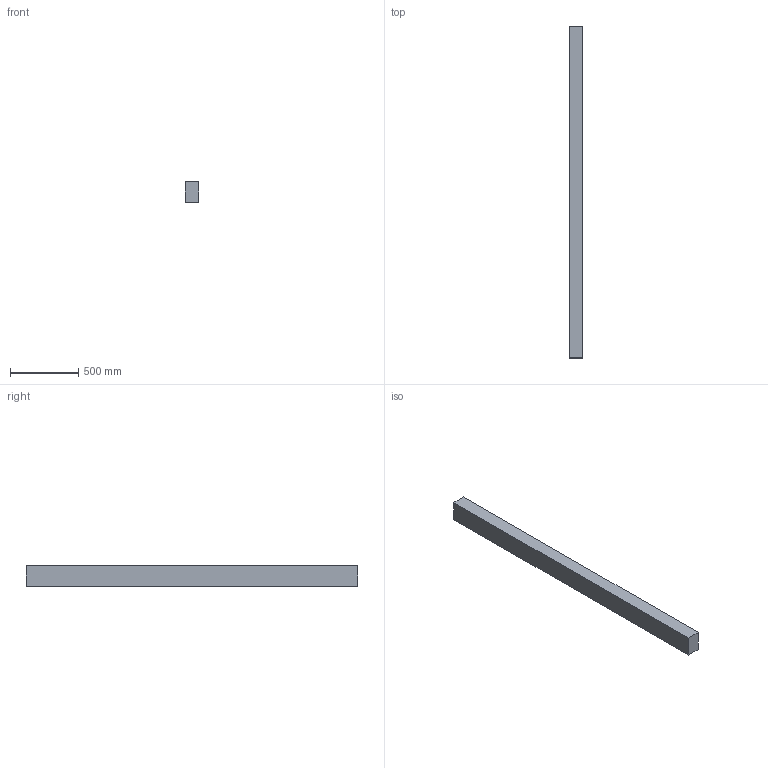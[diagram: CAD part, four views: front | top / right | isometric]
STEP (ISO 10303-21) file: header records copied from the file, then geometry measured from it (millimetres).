
FILE_DESCRIPTION(/* description */ (''),/* implementation_level */ '2;1');
FILE_NAME(/* name */ '4x6x96',/* time_stamp */ '2024-09-20T11:45:49-05:00',/* author */ (''),/* organization */ (''),/* preprocessor_version */ 'ST-DEVELOPER v19.2',/* originating_system */ 'Rhino 8.5',/* authorisation */ '');
FILE_SCHEMA (('CONFIG_CONTROL_DESIGN'));
Length unit declared in the file: inch
Products named in the file (1): Document
Bounding box: 101.6 x 2438.4 x 152.4 mm (x, y, z)
Volume: 37755795.5 mm3; surface area: 1269674.9 mm2
Topology: 1 solids, 1 shells, 6 faces, 12 edges, 8 vertices
Faces by surface type: plane 6
Entity records: 226 total; most frequent: CARTESIAN_POINT 40, ORIENTED_EDGE 24, EDGE_CURVE 12, B_SPLINE_CURVE_WITH_KNOTS 12, DIRECTION 10, VERTEX_POINT 8, AXIS2_PLACEMENT_3D 8, ORGANIZATION 7
